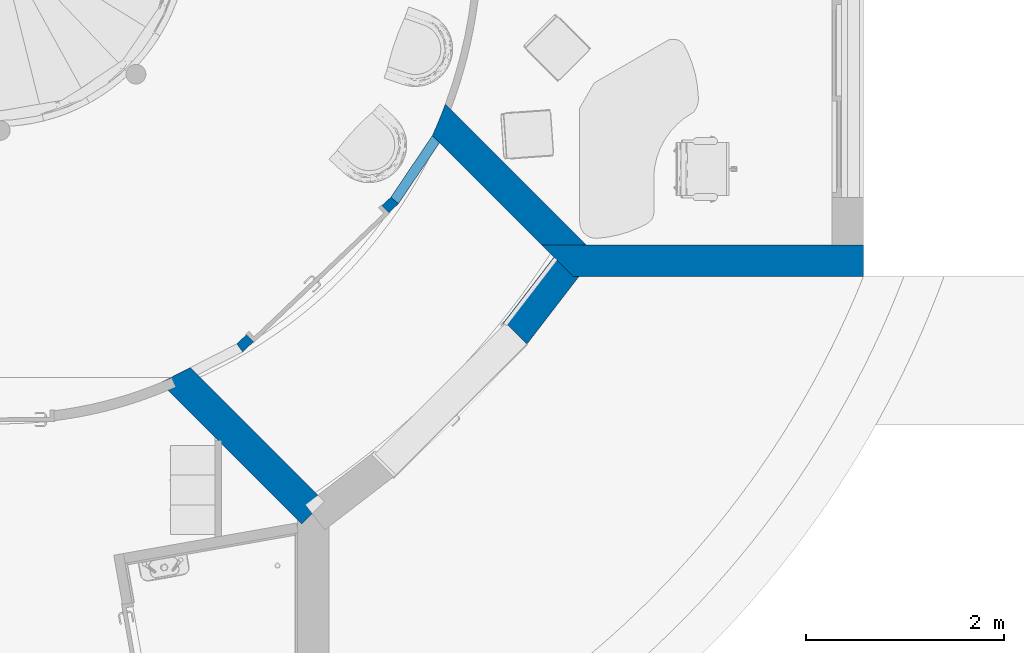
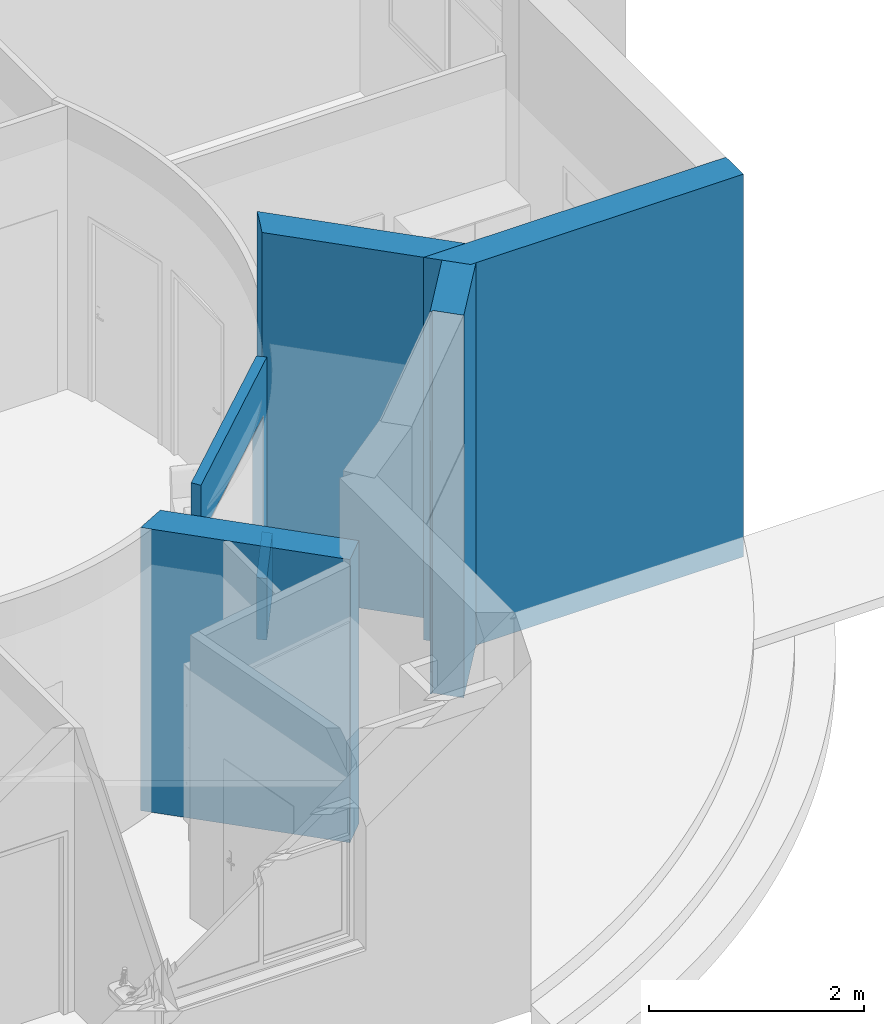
# One storey, part 55 of 137: 6 walls, 2 openings.
"""IFC2X3 building model written with IfcOpenShell, lengths in centimetres."""

from ifc_helpers import new_model, entity, si_unit, converted_unit, derived_unit, direction, frame, frame_2d, origin, place, context, subcontext, project, spatial, polyline, circle_curve, parameter, trimmed, segment, composite_curve, rectangle, outline, extrude, clip, bounded_halfspace, material, layer, layer_set, layer_usage, type_object, element, save


model = new_model("IFC2X3")

# Units and contexts
model_context = context("Model", 3, precision=0.001, world=origin(), true_north=direction((6.12303176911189e-17, 1.0)))
body_context = subcontext(model_context, "Body", "Model", "MODEL_VIEW")
ifc_project = project(units=[si_unit("LENGTHUNIT", "METRE", prefix="CENTI"), si_unit("AREAUNIT", "SQUARE_METRE"), si_unit("VOLUMEUNIT", "CUBIC_METRE"), converted_unit("PLANEANGLEUNIT", "DEGREE", entity("IfcRatioMeasure", 0.0174532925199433), si_unit("PLANEANGLEUNIT", "RADIAN"), dimensions=[0, 0, 0, 0, 0, 0, 0]), si_unit("MASSUNIT", "GRAM", prefix="KILO"), si_unit("TIMEUNIT", "SECOND"), si_unit("FREQUENCYUNIT", "HERTZ"), si_unit("THERMODYNAMICTEMPERATUREUNIT", "DEGREE_CELSIUS"), derived_unit("THERMALTRANSMITTANCEUNIT", [(si_unit("MASSUNIT", "GRAM", prefix="KILO"), 1), (si_unit("THERMODYNAMICTEMPERATUREUNIT", "KELVIN"), -1), (si_unit("TIMEUNIT", "SECOND"), -3)]), derived_unit("VOLUMETRICFLOWRATEUNIT", [(si_unit("LENGTHUNIT", "METRE"), 3), (si_unit("TIMEUNIT", "SECOND"), -1)]), si_unit("ELECTRICCURRENTUNIT", "AMPERE"), si_unit("ELECTRICVOLTAGEUNIT", "VOLT"), si_unit("POWERUNIT", "WATT"), si_unit("FORCEUNIT", "NEWTON", prefix="KILO"), si_unit("ILLUMINANCEUNIT", "LUX"), si_unit("LUMINOUSFLUXUNIT", "LUMEN"), si_unit("LUMINOUSINTENSITYUNIT", "CANDELA"), derived_unit("USERDEFINED", [(si_unit("MASSUNIT", "GRAM", prefix="KILO"), -1), (si_unit("LENGTHUNIT", "METRE"), -2), (si_unit("TIMEUNIT", "SECOND"), 3), (si_unit("LUMINOUSFLUXUNIT", "LUMEN"), 1)]), derived_unit("LINEARVELOCITYUNIT", [(si_unit("LENGTHUNIT", "METRE"), 1), (si_unit("TIMEUNIT", "SECOND"), -1)]), si_unit("PRESSUREUNIT", "PASCAL"), derived_unit("USERDEFINED", [(si_unit("LENGTHUNIT", "METRE"), -2), (si_unit("MASSUNIT", "GRAM", prefix="KILO"), 1), (si_unit("TIMEUNIT", "SECOND"), -2)])], contexts=[model_context])

# Site, building, storey
site_placement = place(None, frame((8.62739174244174, -249.285249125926, 0.0)))
site = spatial("IfcSite", under=ifc_project, at=site_placement, Name="Default", CompositionType="ELEMENT")
building_placement = place(site_placement, origin())
building = spatial("IfcBuilding", under=site, at=building_placement, CompositionType="ELEMENT")
storey_placement = place(building_placement, origin())
storey = spatial("IfcBuildingStorey", under=building, at=storey_placement, Name="RDC", CompositionType="ELEMENT", Elevation=-8.82465566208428e-11)

# Walls
ifc_material_1 = material(Name="Maçonnerie - Enduit")
ifc_layer_1 = layer(ifc_material_1, 1.0)
ifc_material_2 = material(Name="Maçonnerie")
ifc_layer_2 = layer(ifc_material_2, 20.0)
ifc_material_3 = material(Name="Laine minérale")
ifc_layer_3 = layer(ifc_material_3, 10.0)
ifc_material_4 = material(Name="Plâtre")
ifc_layer_4 = layer(ifc_material_4, 1.0)
ifc_layer_set_1 = layer_set([ifc_layer_1, ifc_layer_2, ifc_layer_3, ifc_layer_4], Name="Mur de base:END 1 + PAR 20 + ISO 10 + PLA 1")
ifc_layer_usage_1 = layer_usage(ifc_layer_set_1, "AXIS2", "NEGATIVE", 16.0)
wall_type_1 = type_object("IfcWallType", Name="Mur de base:END 1 + PAR 20 + ISO 10 + PLA 1", PredefinedType="STANDARD", material=ifc_layer_set_1)
wall_1_placement = place(storey_placement, frame((3915.90482781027, 427.980208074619, -25.0), z_axis=(0.0, 0.0, 1.0), x_axis=(-1.0, 0.0, 0.0)))
element("IfcWallStandardCase", 1, at=wall_1_placement, inside=storey, type_object=wall_type_1, material=ifc_layer_usage_1, Name="Mur de base:END 1 + PAR 20 + ISO 10 + PLA 1", ObjectType="Mur de base:END 1 + PAR 20 + ISO 10 + PLA 1", context=body_context, shape_type="Clipping", body=[
    clip(extrude(outline(polyline([(0.0, -16.0), (32.0, -16.0), (280.0, -16.0), (325.254833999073, -16.0), (312.812557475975, -3.55772347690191), (293.254833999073, 16.0), (287.48472333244, 16.0), (0.0, 16.0), (0.0, -16.0)])), origin(), (0.0, 0.0, 1.0), 434.99999999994), bounded_halfspace(frame((303.242693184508, -16.0, 25.0), z_axis=(0.0, 0.0, 1.0), x_axis=(-1.0, 0.0, 0.0)), True, frame((303.242693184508, -16.0, 25.0)), polyline([(0.0, 0.0), (8.46055036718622, 11.0), (-303.242693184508, 11.0), (-303.242693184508, 0.0), (-23.2426931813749, 0.0), (0.0, 0.0)]))),
])
ifc_layer_usage_2 = layer_usage(ifc_layer_set_1, "AXIS2", "POSITIVE", -16.0)
wall_2_placement = place(storey_placement, frame((3359.90482781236, 173.263513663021, 0.0), z_axis=(0.0, 0.0, 1.0), x_axis=(-0.707106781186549, 0.707106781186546, 0.0)))
element("IfcWallStandardCase", 2, at=wall_2_placement, inside=storey, type_object=wall_type_1, material=ifc_layer_usage_2, Name="Mur de base:END 1 + PAR 20 + ISO 10 + PLA 1", ObjectType="Mur de base:END 1 + PAR 20 + ISO 10 + PLA 1", context=body_context, shape_type="SweptSolid", body=[
    extrude(outline(polyline([(0.0, -16.0), (9.25284858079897, -16.0), (191.57527205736, -16.0), (201.972702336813, 16.0), (0.0, 16.0), (0.0, 1.2049172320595), (0.0, -16.0)])), origin(), (0.0, 0.0, 1.0), 322.000000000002),
])

# Wall, opening
ifc_layer_usage_3 = layer_usage(ifc_layer_set_1, "AXIS2", "NEGATIVE", 16.0)
wall_3_placement = place(storey_placement, frame((3615.77480469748, 421.783275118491, -25.0), z_axis=(0.0, 0.0, 1.0), x_axis=(-0.609666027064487, -0.792658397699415, 0.0)))
wall_3 = element("IfcWallStandardCase", 3, at=wall_3_placement, inside=storey, type_object=wall_type_1, material=ifc_layer_usage_3, Name="Mur de base:END 1 + PAR 20 + ISO 10 + PLA 1", ObjectType="Mur de base:END 1 + PAR 20 + ISO 10 + PLA 1", context=body_context, shape_type="SweptSolid", body=[
    extrude(outline(polyline([(0.0, -16.0), (84.0640772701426, -16.0), (84.1825786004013, -14.176079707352), (82.2385005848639, -13.9223927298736), (86.1203549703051, 15.8254005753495), (86.1431388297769, 16.0), (0.0610737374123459, 16.0), (3.57891418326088, 11.4262733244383), (0.0, -16.0)])), origin(), (0.0, 0.0, 1.0), 435.000000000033),
])
opening_1_placement = place(wall_3_placement, origin())
element("IfcOpeningElement", 4, at=opening_1_placement, cuts=wall_3, Name="Mur de base:END 1 + PAR 20 + ISO 10 + PLA 1", ObjectType="Opening", context=body_context, shape_type="SweptSolid", body=[
    extrude(rectangle(XDim=263.0, YDim=188.999999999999, at=frame_2d((-2.20268248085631e-13, 1.4210854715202e-14), x_axis=(0.0, 1.0))), frame((176.699636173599, -28.08821598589, 156.499999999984), z_axis=(0.12939514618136, 0.99159311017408, 0.0), x_axis=(-0.99159311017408, 0.12939514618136, 0.0)), (0.0, 0.0, 1.0), 32.0),
])

# Walls
ifc_layer_5 = layer(ifc_material_4, 1.0)
ifc_layer_6 = layer(ifc_material_2, 20.0)
ifc_layer_7 = layer(ifc_material_3, 10.0)
ifc_layer_8 = layer(ifc_material_4, 1.0)
ifc_layer_set_2 = layer_set([ifc_layer_5, ifc_layer_6, ifc_layer_7, ifc_layer_8], Name="Mur de base:PLA 1 + PAR 20 + ISO 10 + PLA 1")
ifc_layer_usage_4 = layer_usage(ifc_layer_set_2, "AXIS2", "NEGATIVE", 16.0)
wall_type_2 = type_object("IfcWallType", Name="Mur de base:PLA 1 + PAR 20 + ISO 10 + PLA 1", PredefinedType="STANDARD", material=ifc_layer_set_2)
wall_4_placement = place(storey_placement, frame((3624.59111930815, 432.666499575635, 0.0), z_axis=(0.0, 0.0, 1.0), x_axis=(-0.707106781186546, 0.707106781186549, 0.0)))
element("IfcWallStandardCase", 5, at=wall_4_placement, inside=storey, type_object=wall_type_2, material=ifc_layer_usage_4, Name="Mur de base:PLA 1 + PAR 20 + ISO 10 + PLA 1", ObjectType="Mur de base:PLA 1 + PAR 20 + ISO 10 + PLA 1", context=body_context, shape_type="SweptSolid", body=[
    extrude(outline(composite_curve([segment(trimmed(circle_curve(frame_2d((636.905145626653, 184.113938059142), x_axis=(-0.707106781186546, -0.707106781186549)), 479.344749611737), [parameter(335.531123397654)], [parameter(339.675208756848)], True, "PARAMETER"), False, "CONTINUOUS"), segment(polyline([(188.007503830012, 16.0), (32.0, 16.0)]), True, "CONTINUOUS"), segment(polyline([(32.0, 16.0), (0.0, -16.0)]), True, "CONTINUOUS"), segment(polyline([(0.0, -16.0), (201.329892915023, -16.0)]), True, "CONTINUOUS")], self_intersect=False)), origin(), (0.0, 0.0, 1.0), 409.999999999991),
])
ifc_layer_9 = layer(ifc_material_4, 10.0)
ifc_layer_set_3 = layer_set([ifc_layer_9], Name="Mur de base:Int. plâtre 100 mm")
ifc_layer_usage_5 = layer_usage(ifc_layer_set_3, "AXIS2", "NEGATIVE", 5.0)
wall_type_3 = type_object("IfcWallType", Name="Mur de base:Int. plâtre 100 mm", PredefinedType="NOTDEFINED")
wall_5_placement = place(storey_placement, frame((3484.48121779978, 551.498207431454, 0.0), z_axis=(0.0, 0.0, 1.0), x_axis=(-0.559192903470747, -0.829037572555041, 0.0)))
element("IfcWallStandardCase", 6, at=wall_5_placement, inside=storey, type_object=wall_type_3, material=ifc_layer_usage_5, Name="Mur de base:Int. plâtre 100 mm", ObjectType="Mur de base:Int. plâtre 100 mm", context=body_context, shape_type="SweptSolid", body=[
    extrude(outline(polyline([(75.0, -5.0), (76.0869475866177, 5.0), (1.94380309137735, 5.0), (0.0, -5.0), (75.0, -5.0)])), origin(), (0.0, 0.0, 1.0), 70.0),
])

# Wall, opening
ifc_material_5 = material(Name="Plâtre EXISTANT")
ifc_layer_10 = layer(ifc_material_5, 10.0)
ifc_layer_set_4 = layer_set([ifc_layer_10], Name="Mur de base:PLA EXISTANT 10")
ifc_layer_usage_6 = layer_usage(ifc_layer_set_4, "AXIS2", "NEGATIVE", 5.0)
wall_type_4 = type_object("IfcWallType", Name="Mur de base:PLA EXISTANT 10", PredefinedType="STANDARD", material=ifc_layer_set_4)
wall_6_placement = place(storey_placement, frame((3442.63145622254, 489.244572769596, 0.0), z_axis=(0.0, 0.0, 1.0), x_axis=(-0.724253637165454, -0.68953366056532, 0.0)))
wall_6 = element("IfcWallStandardCase", 7, at=wall_6_placement, inside=storey, type_object=wall_type_4, material=ifc_layer_usage_6, Name="Mur de base:PLA EXISTANT 10", ObjectType="Mur de base:PLA EXISTANT 10", context=body_context, shape_type="SweptSolid", body=[
    extrude(outline(polyline([(1.08694758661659, -5.0), (215.819808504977, -5.0), (217.278045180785, 5.0), (0.0, 5.0), (1.08694758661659, -5.0)])), origin(), (0.0, 0.0, 1.0), 322.000000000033),
])
opening_2_placement = place(wall_6_placement, frame((13.299399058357, -5.0, 0.0)))
element("IfcOpeningElement", 8, at=opening_2_placement, cuts=wall_6, Name="Double(R)_bois_Existant_mu:183 x 260 cm:1", ObjectType="Opening", context=body_context, shape_type="SweptSolid", body=[
    extrude(rectangle(XDim=263.0, YDim=189.0, at=frame_2d((131.5, 94.4999999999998), x_axis=(1.0, 0.0))), frame((0.0, 0.0, 0.0), z_axis=(0.0, 1.0, 0.0), x_axis=(0.0, 0.0, 1.0)), (0.0, 0.0, 1.0), 10.0),
])

save(model, "model.ifc")
